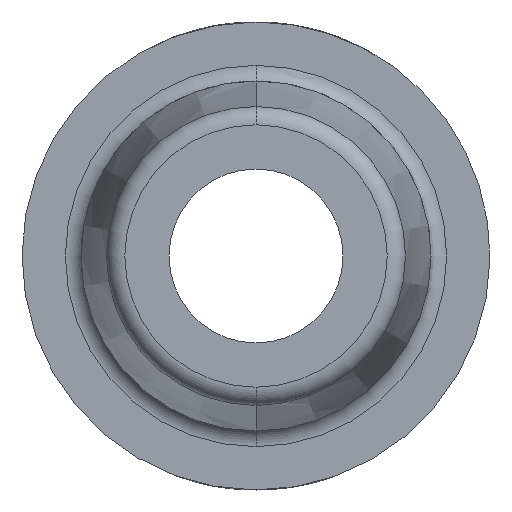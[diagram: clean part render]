
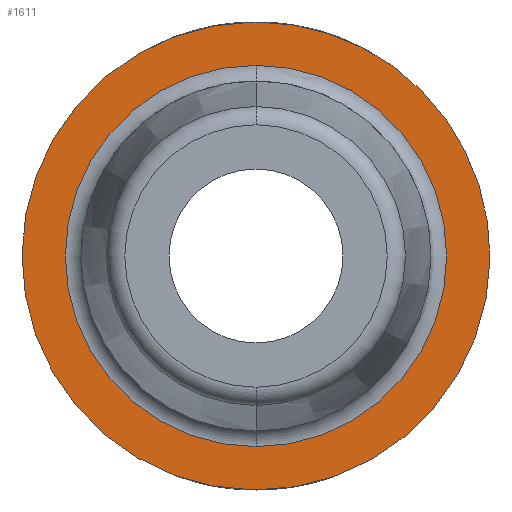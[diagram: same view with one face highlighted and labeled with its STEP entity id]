
A CAD part, left-side view. The second image highlights one B-rep face of the part: STEP entity #1611.
In plain terms, the highlighted planar face has unit normal (-1, 0, 0).
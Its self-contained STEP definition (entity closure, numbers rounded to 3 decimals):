
#346=FACE_BOUND('',#488,.T.);
#362=PLANE('',#1734);
#392=FACE_OUTER_BOUND('',#487,.T.);
#487=EDGE_LOOP('',(#1107,#1108));
#488=EDGE_LOOP('',(#1109,#1110));
#597=CIRCLE('',#1729,2.587);
#602=CIRCLE('',#1735,3.175);
#603=CIRCLE('',#1736,3.175);
#604=CIRCLE('',#1737,2.587);
#673=VERTEX_POINT('',#2244);
#674=VERTEX_POINT('',#2245);
#678=VERTEX_POINT('',#2255);
#679=VERTEX_POINT('',#2256);
#848=EDGE_CURVE('',#673,#674,#597,.T.);
#853=EDGE_CURVE('',#678,#679,#602,.T.);
#854=EDGE_CURVE('',#679,#678,#603,.T.);
#855=EDGE_CURVE('',#674,#673,#604,.T.);
#1107=ORIENTED_EDGE('',*,*,#853,.T.);
#1108=ORIENTED_EDGE('',*,*,#854,.T.);
#1109=ORIENTED_EDGE('',*,*,#855,.T.);
#1110=ORIENTED_EDGE('',*,*,#848,.T.);
#1611=ADVANCED_FACE('',(#392,#346),#362,.F.);
#1729=AXIS2_PLACEMENT_3D('',#2246,#1871,#1872);
#1734=AXIS2_PLACEMENT_3D('',#2254,#1881,#1882);
#1735=AXIS2_PLACEMENT_3D('',#2257,#1883,#1884);
#1736=AXIS2_PLACEMENT_3D('',#2258,#1885,#1886);
#1737=AXIS2_PLACEMENT_3D('',#2259,#1887,#1888);
#1871=DIRECTION('center_axis',(1.,0.,0.));
#1872=DIRECTION('ref_axis',(0.,0.,
1.));
#1881=DIRECTION('center_axis',(1.,0.,0.));
#1882=DIRECTION('ref_axis',(0.,0.,-1.));
#1883=DIRECTION('center_axis',(-1.,0.,0.));
#1884=DIRECTION('ref_axis',(0.,0.,1.));
#1885=DIRECTION('center_axis',(-1.,0.,0.));
#1886=DIRECTION('ref_axis',(0.,0.,1.));
#1887=DIRECTION('center_axis',(1.,0.,0.));
#1888=DIRECTION('ref_axis',(0.,0.,-1.));
#2244=CARTESIAN_POINT('',(-12.25,0.,2.587));
#2245=CARTESIAN_POINT('',(-12.25,0.,-2.587));
#2246=CARTESIAN_POINT('Origin',(-12.25,0.,0.));
#2254=CARTESIAN_POINT('Origin',(-12.25,-3.213,0.));
#2255=CARTESIAN_POINT('',(-12.25,0.,3.175));
#2256=CARTESIAN_POINT('',(-12.25,-3.175,-0.03));
#2257=CARTESIAN_POINT('Origin',(-12.25,0.,0.));
#2258=CARTESIAN_POINT('Origin',(-12.25,0.,0.));
#2259=CARTESIAN_POINT('Origin',(-12.25,0.,0.));
